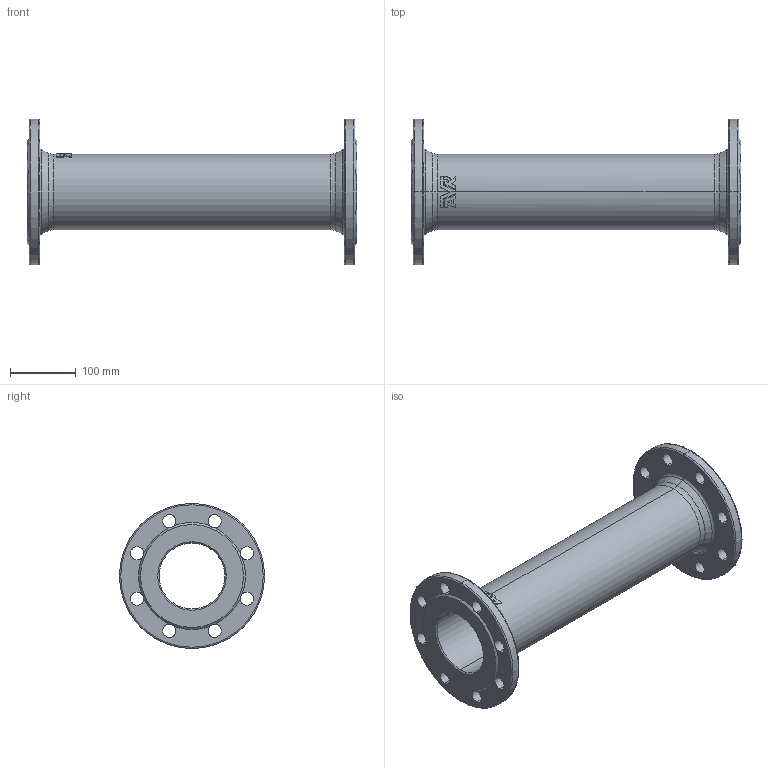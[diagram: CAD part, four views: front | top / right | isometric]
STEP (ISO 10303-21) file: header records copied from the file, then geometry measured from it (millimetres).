
FILE_DESCRIPTION (( 'STEP AP203' ), '1' );
FILE_NAME ('O_712_4810_DN100_1X_REV01.step', '2021-12-01T10:14:54', ( '' ), ( '' ), 'SwSTEP 2.0', 'SolidWorks 2019', '' );
FILE_SCHEMA (( 'CONFIG_CONTROL_DESIGN' ));
Length unit declared in the file: millimetre
Products named in the file (1): O_712_4810_DN100_1X_REV01
Bounding box: 500 x 220 x 220 mm (x, y, z)
Volume: 2095150.7 mm3; surface area: 460777.4 mm2
Topology: 1 solids, 1 shells, 116 faces, 345 edges, 222 vertices
Faces by surface type: cylinder 45, bspline 23, plane 20, torus 16, cone 12
Entity records: 5125 total; most frequent: CARTESIAN_POINT 2050, ORIENTED_EDGE 690, DIRECTION 568, EDGE_CURVE 345, AXIS2_PLACEMENT_3D 246, VERTEX_POINT 222, CIRCLE 152, EDGE_LOOP 141
